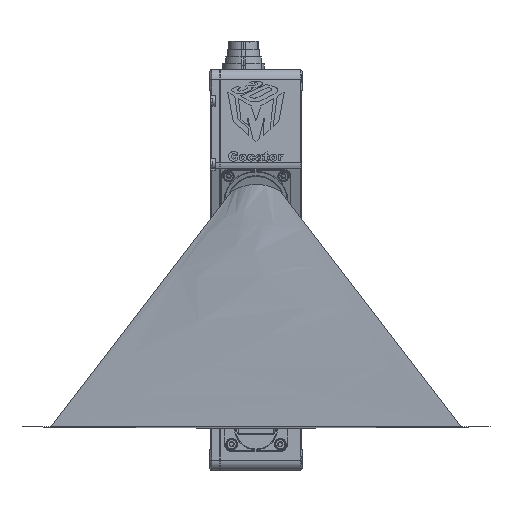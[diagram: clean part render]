
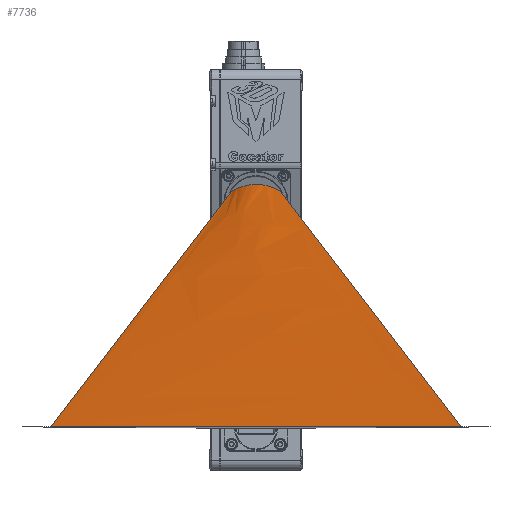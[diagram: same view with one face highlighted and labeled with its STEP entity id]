
A CAD part, top view. The second image highlights one B-rep face of the part: STEP entity #7736.
In plain terms, the highlighted free-form (B-spline) face has degree [3, 1] with [18, 2] control points.
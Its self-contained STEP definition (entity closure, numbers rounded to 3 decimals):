
#603 = VERTEX_POINT ( 'NONE', #27786 ) ;
#951 = EDGE_CURVE ( 'NONE', #603, #3783, #94495, .T. ) ;
#1473 = B_SPLINE_SURFACE_WITH_KNOTS ( 'NONE', 3, 1, ( 
 ( #70963, #80300 ),
 ( #65039, #33975 ),
 ( #25301, #73005 ),
 ( #25979, #42293 ),
 ( #97093, #97445 ),
 ( #98130, #89046 ),
 ( #80649, #66054 ),
 ( #65704, #49263 ),
 ( #41941, #1653 ),
 ( #48931, #9670 ),
 ( #74034, #2672 ),
 ( #57981, #65386 ),
 ( #25636, #26338 ),
 ( #10360, #33629 ),
 ( #89388, #50334 ),
 ( #49616, #1993 ),
 ( #64686, #98485 ),
 ( #26676, #34990 ) ),
 .UNSPECIFIED., .F., .F., .F.,
 ( 4, 2, 2, 2, 2, 2, 2, 2, 4 ),
 ( 2, 2 ),
 ( 0., 0.125, 0.25, 0.375, 0.5, 0.625, 0.75, 0.875, 1. ),
 ( 0., 1. ),
 .UNSPECIFIED. ) ;
#1653 = CARTESIAN_POINT ( 'NONE',  ( 8.083, 0., 393. ) ) ;
#1993 = CARTESIAN_POINT ( 'NONE',  ( -80.833, 0., 393. ) ) ;
#2672 = CARTESIAN_POINT ( 'NONE',  ( -16.167, 0., 393. ) ) ;
#3336 = EDGE_CURVE ( 'NONE', #53381, #603, #87530, .T. ) ;
#3783 = VERTEX_POINT ( 'NONE', #15651 ) ;
#6067 = ORIENTED_EDGE ( 'NONE', *, *, #96896, .T. ) ;
#7287 = CARTESIAN_POINT ( 'NONE',  ( -10.502, 112.8, -5.746 ) ) ;
#7417 = ORIENTED_EDGE ( 'NONE', *, *, #951, .T. ) ;
#7736 = ADVANCED_FACE ( 'NONE', ( #8685 ), #1473, .T. ) ;
#8685 = FACE_OUTER_BOUND ( 'NONE', #94137, .T. ) ;
#9670 = CARTESIAN_POINT ( 'NONE',  ( -8.083, 0., 393. ) ) ;
#9981 = VERTEX_POINT ( 'NONE', #39272 ) ;
#10310 = VECTOR ( 'NONE', #45157, 1000. ) ;
#10360 = CARTESIAN_POINT ( 'NONE',  ( -3.803, 122.222, -33.217 ) ) ;
#14272 = CARTESIAN_POINT ( 'NONE',  ( -5.378, 114.771, -4.95 ) ) ;
#15651 = CARTESIAN_POINT ( 'NONE',  ( 11.184, 112.456, -5.885 ) ) ;
#18310 = CARTESIAN_POINT ( 'NONE',  ( -97., 0., 393. ) ) ;
#22062 = DIRECTION ( 'NONE',  ( -0.203, -0.266, 0.942 ) ) ;
#22269 = CARTESIAN_POINT ( 'NONE',  ( 7.274, 114.184, -5.187 ) ) ;
#25301 = CARTESIAN_POINT ( 'NONE',  ( 4.762, 121.122, -33.662 ) ) ;
#25636 = CARTESIAN_POINT ( 'NONE',  ( -2.912, 122.85, -32.963 ) ) ;
#25979 = CARTESIAN_POINT ( 'NONE',  ( 4.173, 121.862, -33.362 ) ) ;
#26338 = CARTESIAN_POINT ( 'NONE',  ( -40.417, 0., 393. ) ) ;
#26676 = CARTESIAN_POINT ( 'NONE',  ( -5.143, 120.372, -33.964 ) ) ;
#27786 = CARTESIAN_POINT ( 'NONE',  ( 97., 0., 393. ) ) ;
#28870 = VECTOR ( 'NONE', #22062, 1000. ) ;
#30566 = CARTESIAN_POINT ( 'NONE',  ( 1.114, 115.457, -4.673 ) ) ;
#31612 = CARTESIAN_POINT ( 'NONE',  ( 5.378, 114.771, -4.95 ) ) ;
#33629 = CARTESIAN_POINT ( 'NONE',  ( -56.583, 0., 393. ) ) ;
#33975 = CARTESIAN_POINT ( 'NONE',  ( 88.917, 0., 393. ) ) ;
#34990 = CARTESIAN_POINT ( 'NONE',  ( -97., 0., 393. ) ) ;
#37885 = CARTESIAN_POINT ( 'NONE',  ( -4.359, 115.02, -4.849 ) ) ;
#38215 = CARTESIAN_POINT ( 'NONE',  ( -7.274, 114.184, -5.187 ) ) ;
#39263 = CARTESIAN_POINT ( 'NONE',  ( -1.114, 115.457, -4.673 ) ) ;
#39272 = CARTESIAN_POINT ( 'NONE',  ( -11.184, 112.456, -5.885 ) ) ;
#41941 = CARTESIAN_POINT ( 'NONE',  ( 0.623, 123.585, -32.667 ) ) ;
#42078 = VECTOR ( 'NONE', #66624, 1000. ) ;
#42293 = CARTESIAN_POINT ( 'NONE',  ( 64.667, 0., 393. ) ) ;
#42515 = CARTESIAN_POINT ( 'NONE',  ( 51.072, 60.186, 179.518 ) ) ;
#45157 = DIRECTION ( 'NONE',  ( 1., 0., 0. ) ) ;
#47288 = CARTESIAN_POINT ( 'NONE',  ( -11.184, 112.456, -5.885 ) ) ;
#48931 = CARTESIAN_POINT ( 'NONE',  ( -0.623, 123.585, -32.667 ) ) ;
#49263 = CARTESIAN_POINT ( 'NONE',  ( 16.167, 0., 393. ) ) ;
#49616 = CARTESIAN_POINT ( 'NONE',  ( -4.762, 121.122, -33.662 ) ) ;
#50334 = CARTESIAN_POINT ( 'NONE',  ( -64.667, 0., 393. ) ) ;
#53125 = CARTESIAN_POINT ( 'NONE',  ( 0., 0., 393. ) ) ;
#53381 = VERTEX_POINT ( 'NONE', #18310 ) ;
#53915 = CARTESIAN_POINT ( 'NONE',  ( 10.502, 112.8, -5.746 ) ) ;
#54610 = CARTESIAN_POINT ( 'NONE',  ( -8.151, 113.848, -5.323 ) ) ;
#54953 = CARTESIAN_POINT ( 'NONE',  ( 9.765, 113.156, -5.603 ) ) ;
#55297 = CARTESIAN_POINT ( 'NONE',  ( 4.359, 115.02, -4.849 ) ) ;
#57981 = CARTESIAN_POINT ( 'NONE',  ( -2.39, 123.117, -32.856 ) ) ;
#63561 = ORIENTED_EDGE ( 'NONE', *, *, #3336, .T. ) ;
#64686 = CARTESIAN_POINT ( 'NONE',  ( -4.982, 120.741, -33.816 ) ) ;
#65039 = CARTESIAN_POINT ( 'NONE',  ( 4.982, 120.741, -33.816 ) ) ;
#65386 = CARTESIAN_POINT ( 'NONE',  ( -32.333, 0., 393. ) ) ;
#65704 = CARTESIAN_POINT ( 'NONE',  ( 1.245, 123.485, -32.707 ) ) ;
#66054 = CARTESIAN_POINT ( 'NONE',  ( 32.333, 0., 393. ) ) ;
#66270 = LINE ( 'NONE', #85770, #28870 ) ;
#66624 = DIRECTION ( 'NONE',  ( -0.203, 0.266, -0.942 ) ) ;
#70963 = CARTESIAN_POINT ( 'NONE',  ( 5.143, 120.372, -33.964 ) ) ;
#73005 = CARTESIAN_POINT ( 'NONE',  ( 80.833, 0., 393. ) ) ;
#74034 = CARTESIAN_POINT ( 'NONE',  ( -1.245, 123.485, -32.707 ) ) ;
#80300 = CARTESIAN_POINT ( 'NONE',  ( 97., 0., 393. ) ) ;
#80649 = CARTESIAN_POINT ( 'NONE',  ( 2.39, 123.117, -32.856 ) ) ;
#81482 = B_SPLINE_CURVE_WITH_KNOTS ( 'NONE', 3,
 ( #101373, #53915, #54953, #103082, #22269, #31612, #55297, #94338, #30566, #39263, #95024, #37885, #14272, #38215, #54610, #102424, #7287, #47288 ),
 .UNSPECIFIED., .F., .F.,
 ( 4, 2, 2, 2, 2, 2, 2, 2, 4 ),
 ( 0., 0.003, 0.006, 0.009, 0.012, 0.015, 0.018, 0.02, 0.023 ),
 .UNSPECIFIED. ) ;
#85770 = CARTESIAN_POINT ( 'NONE',  ( -51.072, 60.186, 179.518 ) ) ;
#87530 = LINE ( 'NONE', #53125, #10310 ) ;
#89046 = CARTESIAN_POINT ( 'NONE',  ( 40.417, 0., 393. ) ) ;
#89388 = CARTESIAN_POINT ( 'NONE',  ( -4.173, 121.862, -33.362 ) ) ;
#94137 = EDGE_LOOP ( 'NONE', ( #63561, #7417, #102949, #6067 ) ) ;
#94338 = CARTESIAN_POINT ( 'NONE',  ( 2.226, 115.364, -4.711 ) ) ;
#94447 = EDGE_CURVE ( 'NONE', #3783, #9981, #81482, .T. ) ;
#94495 = LINE ( 'NONE', #42515, #42078 ) ;
#95024 = CARTESIAN_POINT ( 'NONE',  ( -2.226, 115.364, -4.711 ) ) ;
#96896 = EDGE_CURVE ( 'NONE', #9981, #53381, #66270, .T. ) ;
#97093 = CARTESIAN_POINT ( 'NONE',  ( 3.803, 122.222, -33.217 ) ) ;
#97445 = CARTESIAN_POINT ( 'NONE',  ( 56.583, 0., 393. ) ) ;
#98130 = CARTESIAN_POINT ( 'NONE',  ( 2.912, 122.85, -32.963 ) ) ;
#98485 = CARTESIAN_POINT ( 'NONE',  ( -88.917, 0., 393. ) ) ;
#101373 = CARTESIAN_POINT ( 'NONE',  ( 11.184, 112.456, -5.885 ) ) ;
#102424 = CARTESIAN_POINT ( 'NONE',  ( -9.765, 113.156, -5.603 ) ) ;
#102949 = ORIENTED_EDGE ( 'NONE', *, *, #94447, .T. ) ;
#103082 = CARTESIAN_POINT ( 'NONE',  ( 8.151, 113.848, -5.323 ) ) ;
